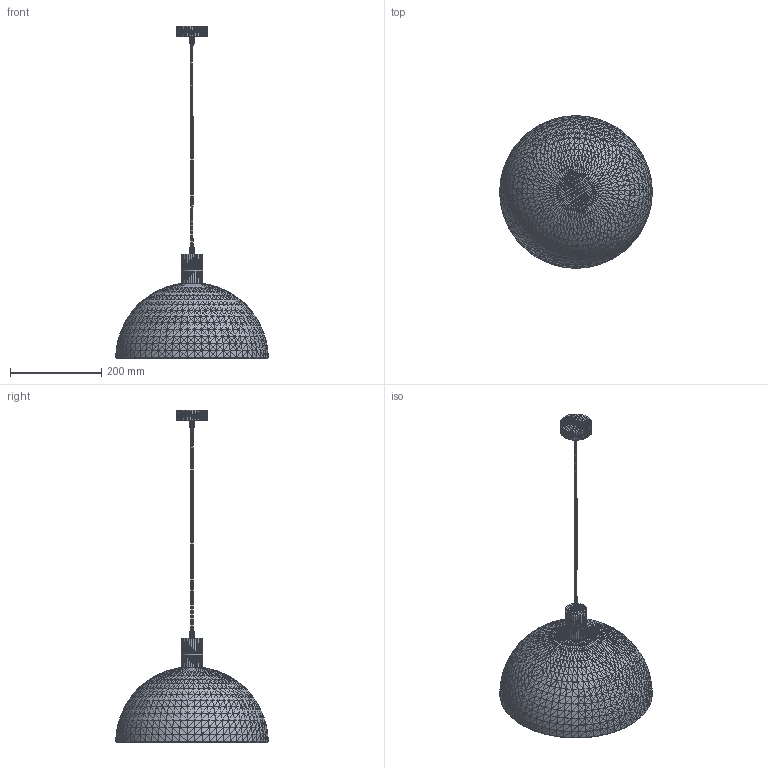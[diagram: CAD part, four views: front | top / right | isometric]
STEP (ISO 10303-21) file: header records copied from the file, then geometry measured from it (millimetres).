
FILE_DESCRIPTION(('FreeCAD Model'),'2;1');
FILE_NAME('Open CASCADE Shape Model','2022-11-30T08:12:50',('Author'),( ''),'Open CASCADE STEP processor 7.6','FreeCAD','Unknown');
FILE_SCHEMA(('AUTOMOTIVE_DESIGN { 1 0 10303 214 1 1 1 1 }'));
Length unit declared in the file: millimetre
Products named in the file (13): Unnamed; Mesh012 (Solid); Mesh001001 (Solid); Mesh002001 (Solid); Mesh003001 (Solid); Mesh004001 (Solid); Mesh005001 (Solid); Mesh006001 (Solid); Mesh007001 (Solid); Mesh008001 (Solid); Mesh009001 (Solid); Mesh010001 (Solid); Mesh011001 (Solid)
Assembly tree (12 placements, depth 2):
  Unnamed
    Mesh012 (Solid)
    Mesh001001 (Solid)
    Mesh002001 (Solid)
    Mesh003001 (Solid)
    Mesh004001 (Solid)
    Mesh005001 (Solid)
    Mesh006001 (Solid)
    Mesh007001 (Solid)
    Mesh008001 (Solid)
    Mesh009001 (Solid)
    Mesh010001 (Solid)
    Mesh011001 (Solid)
Bounding box: 334.75 x 334.75 x 729.15 mm (x, y, z)
Volume: 386074.8 mm3; surface area: 386412.1 mm2
Topology: 6 solids, 12 shells, 8768 faces, 13224 edges, 4472 vertices
Faces by surface type: plane 8768
Entity records: 342938 total; most frequent: DIRECTION 57090, CARTESIAN_POINT 52781, LINE 39528, VECTOR 39528, ORIENTED_EDGE 26304, PCURVE 26304, DEFINITIONAL_REPRESENTATION 26304, EDGE_CURVE 13224
